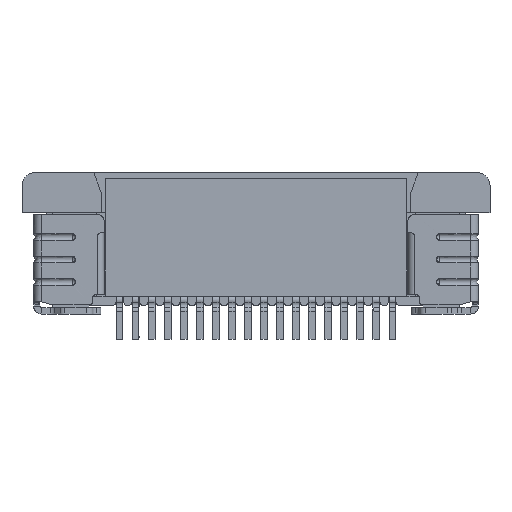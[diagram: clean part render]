
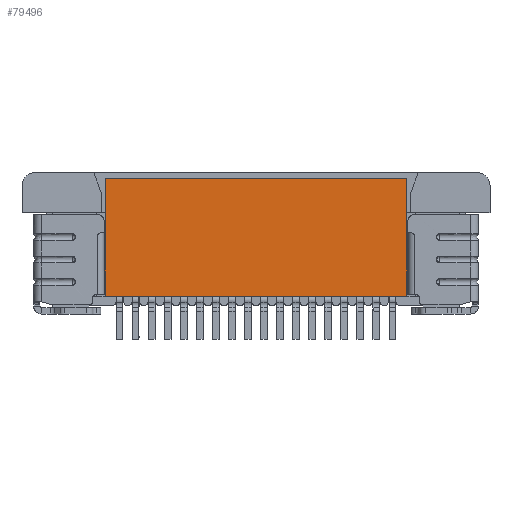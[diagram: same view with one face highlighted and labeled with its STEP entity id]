
A CAD part, front view. The second image highlights one B-rep face of the part: STEP entity #79496.
In plain terms, the highlighted planar face has unit normal (0, -1, 0).
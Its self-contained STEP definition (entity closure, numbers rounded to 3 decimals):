
#506 = CARTESIAN_POINT ( 'NONE',  ( 1.65, -1., 0. ) ) ;
#5780 = AXIS2_PLACEMENT_3D ( 'NONE', #40072, #70140, #8032 ) ;
#7647 = DIRECTION ( 'NONE',  ( 1., 0., 0. ) ) ;
#8032 = DIRECTION ( 'NONE',  ( 1., 0., 0. ) ) ;
#10378 = LINE ( 'NONE', #40475, #69005 ) ;
#10864 = DIRECTION ( 'NONE',  ( -1., 0., 0. ) ) ;
#12740 = ORIENTED_EDGE ( 'NONE', *, *, #46542, .T. ) ;
#17339 = CARTESIAN_POINT ( 'NONE',  ( 1.65, -1., -3.66 ) ) ;
#19184 = VERTEX_POINT ( 'NONE', #80193 ) ;
#23621 = CARTESIAN_POINT ( 'NONE',  ( 11.05, -1., 0. ) ) ;
#23868 = LINE ( 'NONE', #30801, #32517 ) ;
#25973 = EDGE_CURVE ( 'NONE', #90252, #62122, #23868, .T. ) ;
#30801 = CARTESIAN_POINT ( 'NONE',  ( 1.65, -1., -3.66 ) ) ;
#32517 = VECTOR ( 'NONE', #7647, 1000. ) ;
#34186 = VECTOR ( 'NONE', #52781, 1000. ) ;
#35283 = VERTEX_POINT ( 'NONE', #23621 ) ;
#40072 = CARTESIAN_POINT ( 'NONE',  ( 6.35, -1., -1.83 ) ) ;
#40475 = CARTESIAN_POINT ( 'NONE',  ( 11.05, -1., 0. ) ) ;
#41331 = EDGE_LOOP ( 'NONE', ( #62338, #95493, #71366, #12740 ) ) ;
#46542 = EDGE_CURVE ( 'NONE', #62122, #35283, #74770, .T. ) ;
#52781 = DIRECTION ( 'NONE',  ( 0., 0., -1. ) ) ;
#54866 = FACE_OUTER_BOUND ( 'NONE', #41331, .T. ) ;
#59520 = CARTESIAN_POINT ( 'NONE',  ( 11.05, -1., -3.66 ) ) ;
#59585 = EDGE_CURVE ( 'NONE', #35283, #19184, #10378, .T. ) ;
#62122 = VERTEX_POINT ( 'NONE', #75903 ) ;
#62338 = ORIENTED_EDGE ( 'NONE', *, *, #59585, .T. ) ;
#69005 = VECTOR ( 'NONE', #10864, 1000. ) ;
#70140 = DIRECTION ( 'NONE',  ( 0., 1., 0. ) ) ;
#71366 = ORIENTED_EDGE ( 'NONE', *, *, #25973, .T. ) ;
#74770 = LINE ( 'NONE', #59520, #95123 ) ;
#75252 = DIRECTION ( 'NONE',  ( 0., 0., 1. ) ) ;
#75903 = CARTESIAN_POINT ( 'NONE',  ( 11.05, -1., -3.66 ) ) ;
#79496 = ADVANCED_FACE ( 'NONE', ( #54866 ), #84916, .F. ) ;
#80193 = CARTESIAN_POINT ( 'NONE',  ( 1.65, -1., 0. ) ) ;
#84136 = EDGE_CURVE ( 'NONE', #19184, #90252, #90203, .T. ) ;
#84916 = PLANE ( 'NONE',  #5780 ) ;
#90203 = LINE ( 'NONE', #506, #34186 ) ;
#90252 = VERTEX_POINT ( 'NONE', #17339 ) ;
#95123 = VECTOR ( 'NONE', #75252, 1000. ) ;
#95493 = ORIENTED_EDGE ( 'NONE', *, *, #84136, .T. ) ;
